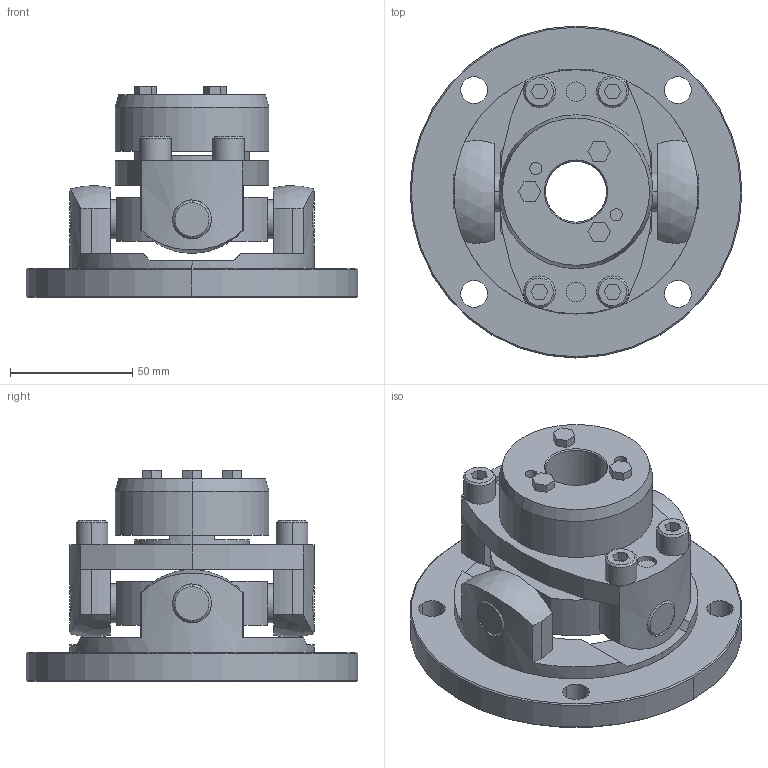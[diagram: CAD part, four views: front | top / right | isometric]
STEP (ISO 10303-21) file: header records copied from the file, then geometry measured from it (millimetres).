
FILE_DESCRIPTION((''),'2;1');
FILE_NAME('UCNF-100T7-25.stp','2011-09-17T16:43:00',(''),(''),'AutoCAD STEP 2000i','AutoCAD 2000i',', , ');
FILE_SCHEMA(('CONFIG_CONTROL_DESIGN'));
Length unit declared in the file: millimetre
Products named in the file (7): UCNF-100T7-25; 忣兜1; UCN100T7-T025; UCNF-10002; UCN100T7-T022-1; UCN100T7-T022; UCN100-SEN
Assembly tree (6 placements, depth 2):
  UCNF-100T7-25
    忣兜1
    UCN100T7-T025
    UCNF-10002
    UCN100T7-T022-1
    UCN100T7-T022
    UCN100-SEN
Bounding box: 136 x 136 x 86.5 mm (x, y, z)
Volume: 373829.2 mm3; surface area: 84509.6 mm2
Topology: 1 solids, 1 shells, 275 faces, 688 edges, 448 vertices
Faces by surface type: plane 129, cylinder 104, cone 38, sphere 4
Entity records: 8877 total; most frequent: CARTESIAN_POINT 1822, DIRECTION 1534, ORIENTED_EDGE 1376, EDGE_CURVE 688, AXIS2_PLACEMENT_3D 580, VERTEX_POINT 448, VECTOR 374, LINE 374
